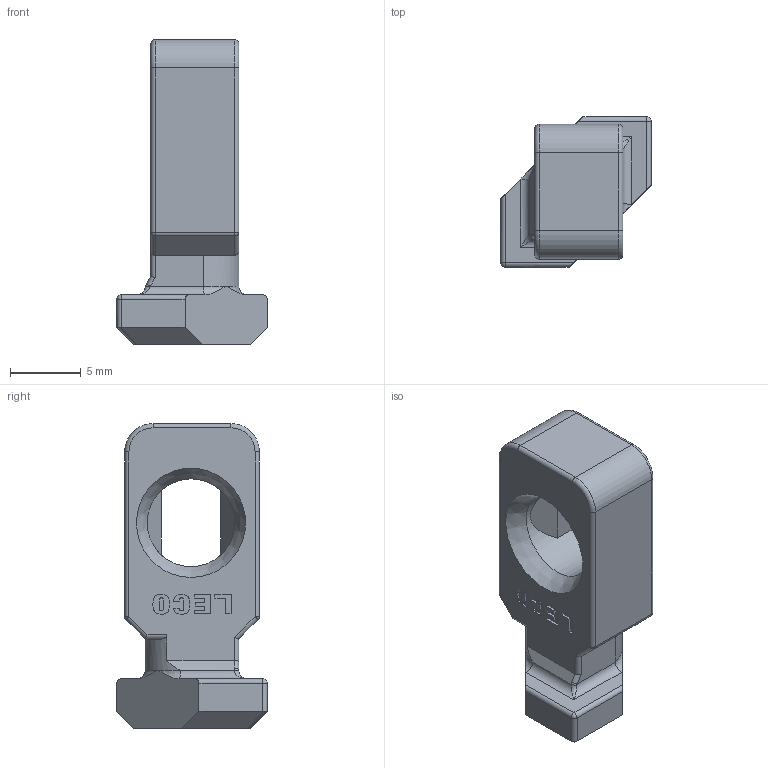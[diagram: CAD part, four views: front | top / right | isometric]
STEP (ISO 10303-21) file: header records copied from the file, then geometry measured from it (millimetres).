
FILE_DESCRIPTION(('STEP AP214'),'1');
FILE_NAME('TL2X.stp','2016-11-17T08:08:26',(' '),(' '),'Spatial InterOp 3D',' ',' ');
FILE_SCHEMA(('automotive_design'));
Length unit declared in the file: millimetre
Products named in the file (1): TL2X
Bounding box: 10.6 x 10.6 x 21.5 mm (x, y, z)
Volume: 1064.2 mm3; surface area: 858.5 mm2
Topology: 1 solids, 1 shells, 263 faces, 727 edges, 463 vertices
Faces by surface type: plane 207, cylinder 36, torus 10, sphere 6, bspline 3, cone 1
Full cylindrical faces by diameter (mm): 6.2 x1
Entity records: 10537 total; most frequent: CARTESIAN_POINT 1759, ORIENTED_EDGE 1432, DIRECTION 1300, EDGE_CURVE 716, LINE 622, VECTOR 622, VERTEX_POINT 462, AXIS2_PLACEMENT_3D 339
